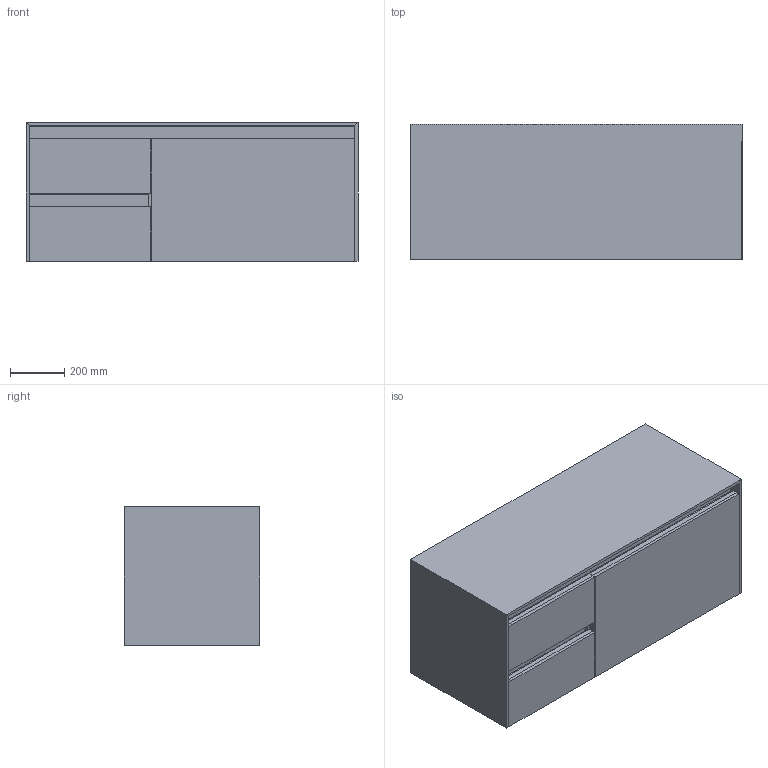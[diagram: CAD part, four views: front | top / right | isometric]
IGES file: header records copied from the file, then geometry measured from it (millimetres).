
Global section: file name: \\Archi-NAS\Comune\X GIOVANNI\MOBILI\VICTORIA\VICTORIA 5.igs; native system: Rhinoceros ( Jan 17 2018 ); preprocessor: Trout Lake IGES 012 Jan 17 2018; date: 230608.065920; units: millimetre
Bounding box: 1224 x 500 x 512 mm (x, y, z)
Surface area: 12486356.7 mm2 (no closed solid volume)
Topology: 0 solids, 0 shells, 200 faces, 852 edges, 852 vertices
Faces by surface type: bspline 200
